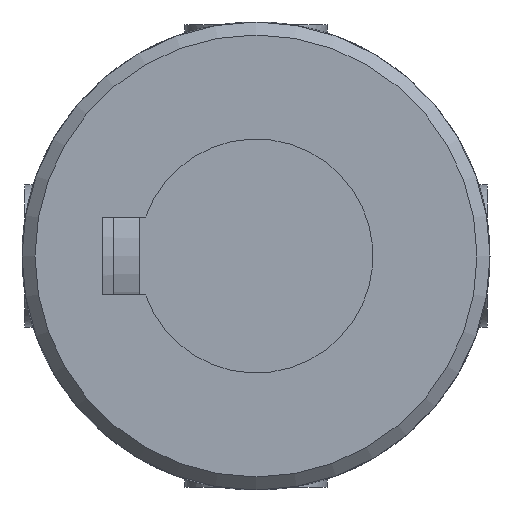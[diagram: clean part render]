
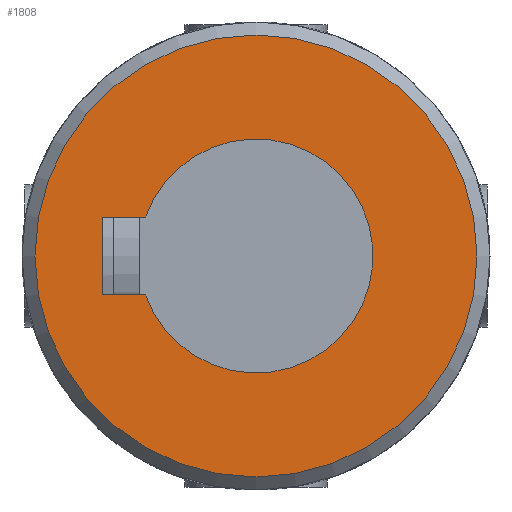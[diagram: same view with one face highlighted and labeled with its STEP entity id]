
A CAD part, front view. The second image highlights one B-rep face of the part: STEP entity #1808.
In plain terms, the highlighted planar face has unit normal (0, -1, 0).
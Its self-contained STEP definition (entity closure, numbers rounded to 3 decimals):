
#110=LINE('',#3449,#167);
#114=LINE('',#3476,#171);
#116=LINE('',#3484,#173);
#167=VECTOR('',#2375,3.315);
#171=VECTOR('',#2387,6.);
#173=VECTOR('',#2391,3.315);
#223=PLANE('',#1997);
#397=FACE_BOUND('',#635,.T.);
#487=FACE_OUTER_BOUND('',#634,.T.);
#634=EDGE_LOOP('',(#1586));
#635=EDGE_LOOP('',(#1587,#1588,#1589,#1590));
#730=CIRCLE('',#1984,9.);
#736=CIRCLE('',#1995,17.);
#879=VERTEX_POINT('',#3446);
#880=VERTEX_POINT('',#3448);
#883=VERTEX_POINT('',#3458);
#885=VERTEX_POINT('',#3474);
#894=VERTEX_POINT('',#3561);
#1107=EDGE_CURVE('',#880,#879,#110,.T.);
#1111=EDGE_CURVE('',#883,#880,#730,.T.);
#1115=EDGE_CURVE('',#879,#885,#114,.T.);
#1118=EDGE_CURVE('',#885,#883,#116,.T.);
#1128=EDGE_CURVE('',#894,#894,#736,.T.);
#1586=ORIENTED_EDGE('',*,*,#1128,.F.);
#1587=ORIENTED_EDGE('',*,*,#1107,.T.);
#1588=ORIENTED_EDGE('',*,*,#1115,.T.);
#1589=ORIENTED_EDGE('',*,*,#1118,.T.);
#1590=ORIENTED_EDGE('',*,*,#1111,.T.);
#1808=ADVANCED_FACE('',(#487,#397),#223,.F.);
#1984=AXIS2_PLACEMENT_3D('',#3459,#2381,#2382);
#1995=AXIS2_PLACEMENT_3D('',#3562,#2408,#2409);
#1997=AXIS2_PLACEMENT_3D('',#3786,#2416,#2417);
#2375=DIRECTION('',(0.,0.,-1.));
#2381=DIRECTION('center_axis',(0.,1.,0.));
#2382=DIRECTION('ref_axis',(0.333,0.,-0.943));
#2387=DIRECTION('',(-1.,0.,0.));
#2391=DIRECTION('',(0.,0.,1.));
#2408=DIRECTION('center_axis',(0.,1.,0.));
#2409=DIRECTION('ref_axis',(1.,0.,0.));
#2416=DIRECTION('center_axis',(0.,1.,0.));
#2417=DIRECTION('ref_axis',(0.,0.,1.));
#3446=CARTESIAN_POINT('',(3.,-45.5,-11.8));
#3448=CARTESIAN_POINT('',(3.,-45.5,-8.485));
#3449=CARTESIAN_POINT('',(3.,-45.5,-4.243));
#3458=CARTESIAN_POINT('',(-3.,-45.5,-8.485));
#3459=CARTESIAN_POINT('Origin',(0.,-45.5,0.));
#3474=CARTESIAN_POINT('',(-3.,-45.5,-11.8));
#3476=CARTESIAN_POINT('',(1.5,-45.5,-11.8));
#3484=CARTESIAN_POINT('',(-3.,-45.5,-5.9));
#3561=CARTESIAN_POINT('',(-17.,-45.5,0.));
#3562=CARTESIAN_POINT('Origin',(0.,-45.5,0.));
#3786=CARTESIAN_POINT('Origin',(0.,-45.5,0.));
